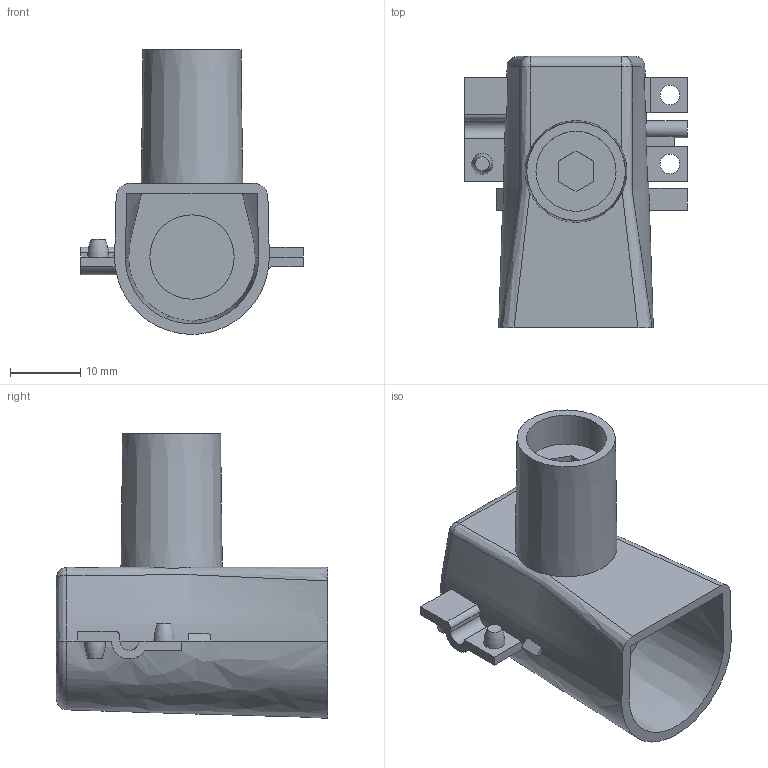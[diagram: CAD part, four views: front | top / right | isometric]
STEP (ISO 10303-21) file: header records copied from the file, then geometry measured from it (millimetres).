
FILE_DESCRIPTION(/* description */ ('Unknown'),/* implementation_level */ '2;1');
FILE_NAME(/* name */ 'MT 525',/* time_stamp */ '2021-10-08T09:21:29+02:00',/* author */ ('Unknown'),/* organization */ ('Unknown'),/* preprocessor_version */ 'ST-DEVELOPER v16.7',/* originating_system */ 'Solid Edge',/* authorisation */ 'Unknown');
FILE_SCHEMA (('AUTOMOTIVE_DESIGN {1 0 10303 214 3 1 1}'));
Length unit declared in the file: millimetre
Products named in the file (1): MT 525
Bounding box: 31.7 x 38.6 x 40.5 mm (x, y, z)
Volume: 10089.6 mm3; surface area: 6757.2 mm2
Topology: 1 solids, 1 shells, 83 faces, 217 edges, 140 vertices
Faces by surface type: plane 54, bspline 16, cylinder 10, torus 2, cone 1
Full cylindrical faces by diameter (mm): 2.4 x1, 2.8 x2, 11.4 x1, 12 x1
Entity records: 8395 total; most frequent: CARTESIAN_POINT 6593, ORIENTED_EDGE 408, DIRECTION 270, EDGE_CURVE 204, VERTEX_POINT 137, EDGE_LOOP 101, FACE_BOUND 101, B_SPLINE_CURVE_WITH_KNOTS 92
